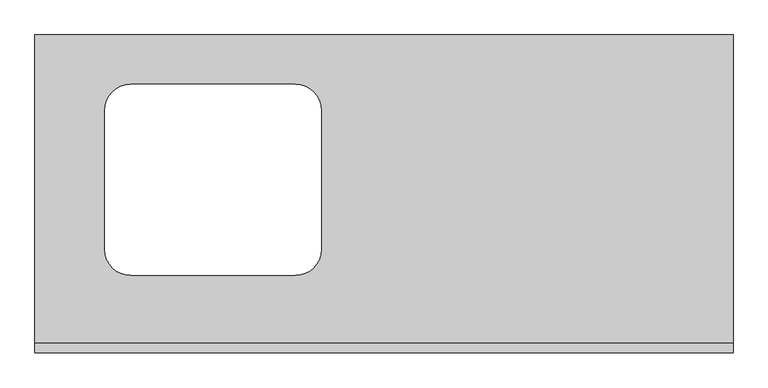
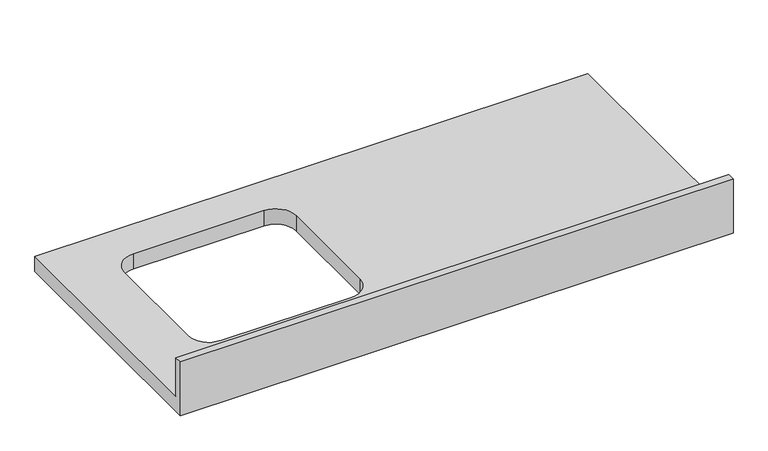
"""IFC4 building model written with IfcOpenShell, lengths in millimetres: furniture geometry, M_Верх столешницы с отверстием для раковины : Глубина 600мм."""

from ifc_helpers import new_model, si_unit, frame, origin, place, context, project, spatial, polyline, circle_curve, source, transform, mapped, element, save
from ifc_brep_helpers import plane_surface, revolved_surface, advanced_brep


def furniture_20fae36d(model_context):
    return source(origin(), model_context, "Body", "AdvancedBrep", [
        advanced_brep(
        [(-1200.4622951, 625.0, 900.0), (-1200.4622951, 19.05, 900.0), (171.5377049, 19.05, 900.0), (171.5377049, 625.0, 900.0), (-1012.3622951, 152.3, 900.0), (-1063.1622951, 203.1, 900.0), (-1063.1622951, 476.9, 900.0), (-1012.3622951, 527.7, 900.0), (-688.5622951, 527.7, 900.0), (-637.7622951, 476.9, 900.0), (-637.7622951, 203.1, 900.0), (-688.5622951, 152.3, 900.0), (171.5377049, 0.0, 860.0), (-1200.4622951, 0.0, 860.0), (-1200.4622951, 625.0, 860.0), (171.5377049, 625.0, 860.0), (-688.5622951, 152.3, 860.0), (-637.7622951, 203.1, 860.0), (-637.7622951, 476.9, 860.0), (-688.5622951, 527.7, 860.0), (-1012.3622951, 527.7, 860.0), (-1063.1622951, 476.9, 860.0), (-1063.1622951, 203.1, 860.0), (-1012.3622951, 152.3, 860.0), (171.5377049, 0.0, 1001.6), (-1200.4622951, 0.0, 1001.6), (-1200.4622951, 19.05, 1001.6), (171.5377049, 19.05, 1001.6)],
        [
            (0, 1),
            (1, 2),
            (2, 3),
            (3, 0),
            (4, 5, circle_curve(frame((-1012.3622951, 203.1, 900.0), z_axis=(0.0, 0.0, -1.0), x_axis=(1.0, 0.0, 0.0)), 50.8)),
            (5, 6),
            (6, 7, circle_curve(frame((-1012.3622951, 476.9, 900.0), z_axis=(0.0, 0.0, -1.0), x_axis=(1.0, 0.0, 0.0)), 50.8)),
            (7, 8),
            (8, 9, circle_curve(frame((-688.5622951, 476.9, 900.0), z_axis=(0.0, 0.0, -1.0), x_axis=(1.0, 0.0, 0.0)), 50.8)),
            (9, 10),
            (10, 11, circle_curve(frame((-688.5622951, 203.1, 900.0), z_axis=(0.0, 0.0, -1.0), x_axis=(1.0, 0.0, 0.0)), 50.8)),
            (11, 4),
            (12, 13),
            (13, 14),
            (14, 15),
            (15, 12),
            (16, 17, circle_curve(frame((-688.5622951, 203.1, 860.0), z_axis=(0.0, 0.0, 1.0), x_axis=(1.0, 0.0, 0.0)), 50.8)),
            (17, 18),
            (18, 19, circle_curve(frame((-688.5622951, 476.9, 860.0), z_axis=(0.0, 0.0, 1.0), x_axis=(1.0, 0.0, 0.0)), 50.8)),
            (19, 20),
            (20, 21, circle_curve(frame((-1012.3622951, 476.9, 860.0), z_axis=(0.0, 0.0, 1.0), x_axis=(1.0, 0.0, 0.0)), 50.8)),
            (21, 22),
            (22, 23, circle_curve(frame((-1012.3622951, 203.1, 860.0), z_axis=(0.0, 0.0, 1.0), x_axis=(1.0, 0.0, 0.0)), 50.8)),
            (23, 16),
            (12, 24),
            (24, 25),
            (25, 13),
            (25, 26),
            (26, 1),
            (0, 14),
            (3, 15),
            (2, 27),
            (27, 24),
            (27, 26),
            (11, 16),
            (23, 4),
            (22, 5),
            (21, 6),
            (20, 7),
            (19, 8),
            (18, 9),
            (17, 10),
        ],
        [
            plane_surface(frame((-1200.4622951, 0.0, 900.0), z_axis=(0.0, 0.0, 1.0), x_axis=(-1.0, 0.0, 0.0))),
            plane_surface(frame((-1200.4622951, 0.0, 860.0), z_axis=(0.0, 0.0, -1.0), x_axis=(1.0, 0.0, 0.0))),
            plane_surface(frame((171.5377049, 0.0, 900.0), z_axis=(0.0, -1.0, 0.0), x_axis=(0.0, 0.0, -1.0))),
            plane_surface(frame((-1200.4622951, 0.0, 900.0), z_axis=(-1.0, 0.0, 0.0), x_axis=(0.0, 0.0, -1.0))),
            plane_surface(frame((-1200.4622951, 625.0, 900.0), z_axis=(0.0, 1.0, 0.0), x_axis=(0.0, 0.0, -1.0))),
            plane_surface(frame((171.5377049, 625.0, 900.0), z_axis=(1.0, 0.0, 0.0), x_axis=(0.0, 0.0, -1.0))),
            plane_surface(frame((-1200.4622951, 0.0, 1001.6), z_axis=(0.0, 0.0, 1.0), x_axis=(0.0, 1.0, 0.0))),
            plane_surface(frame((-1200.4622951, 19.05, 1001.6), z_axis=(0.0, 1.0, 0.0), x_axis=(0.0, 0.0, -1.0))),
            plane_surface(frame((-688.5622951, 152.3, 900.0), z_axis=(0.0, 1.0, 0.0), x_axis=(0.0, 0.0, -1.0))),
            revolved_surface(polyline([(-961.5622951, 203.1, 900.0), (-961.5622951, 203.1, 860.0)]), (-1012.3622951, 203.1, 860.0), (0.0, 0.0, 1.0)),
            plane_surface(frame((-1063.1622951, 203.1, 900.0), z_axis=(1.0, 0.0, 0.0), x_axis=(0.0, 0.0, -1.0))),
            revolved_surface(polyline([(-961.5622951, 476.9, 900.0), (-961.5622951, 476.9, 860.0)]), (-1012.3622951, 476.9, 860.0), (0.0, 0.0, 1.0)),
            plane_surface(frame((-1012.3622951, 527.7, 900.0), z_axis=(0.0, -1.0, 0.0), x_axis=(0.0, 0.0, -1.0))),
            revolved_surface(polyline([(-637.7622951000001, 476.9, 900.0), (-637.7622951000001, 476.9, 860.0)]), (-688.5622951, 476.9, 860.0), (0.0, 0.0, 1.0)),
            plane_surface(frame((-637.7622951, 476.9, 900.0), z_axis=(-1.0, 0.0, 0.0), x_axis=(0.0, 0.0, -1.0))),
            revolved_surface(polyline([(-637.7622951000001, 203.1, 900.0), (-637.7622951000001, 203.1, 860.0)]), (-688.5622951, 203.1, 860.0), (0.0, 0.0, 1.0)),
        ],
        [
            (0, [[1, 2, 3, 4], [5, 6, 7, 8, 9, 10, 11, 12]]),
            (1, [[13, 14, 15, 16], [17, 18, 19, 20, 21, 22, 23, 24]]),
            (2, [[25, 26, 27, -13]]),
            (3, [[-27, 28, 29, -1, 30, -14]]),
            (4, [[31, -15, -30, -4]]),
            (5, [[-31, -3, 32, 33, -25, -16]]),
            (6, [[-26, -33, 34, -28]]),
            (7, [[-32, -2, -29, -34]]),
            (8, [[-12, 35, -24, 36]]),
            (9, [[-23, 37, -5, -36]]),
            (10, [[-22, 38, -6, -37]]),
            (11, [[-21, 39, -7, -38]]),
            (12, [[-20, 40, -8, -39]]),
            (13, [[-19, 41, -9, -40]]),
            (14, [[-18, 42, -10, -41]]),
            (15, [[-11, -42, -17, -35]]),
        ],
    ),
    ])


if __name__ == "__main__":
    model = new_model("IFC4")
    model_context = context("Model", 3, world=origin())
    ifc_project = project(units=[si_unit("LENGTHUNIT", "METRE", prefix="MILLI")], contexts=[model_context])
    site = spatial("IfcSite", under=ifc_project)
    building = spatial("IfcBuilding", under=site)
    placement = place(None, origin())
    furniture_shape = furniture_20fae36d(model_context)
    element("IfcFurniture", 1, ObjectType="M_Верх столешницы с отверстием для раковины : Глубина 600мм", at=placement, inside=building, context=model_context, shape_type="MappedRepresentation", body=[
        mapped(furniture_shape, transform((0.0, 0.0, 0.0), x_axis=(1.0, 0.0, 0.0), y_axis=(0.0, 1.0, 0.0), z_axis=(0.0, 0.0, 1.0))),
    ])
    save(model, "model.ifc")
